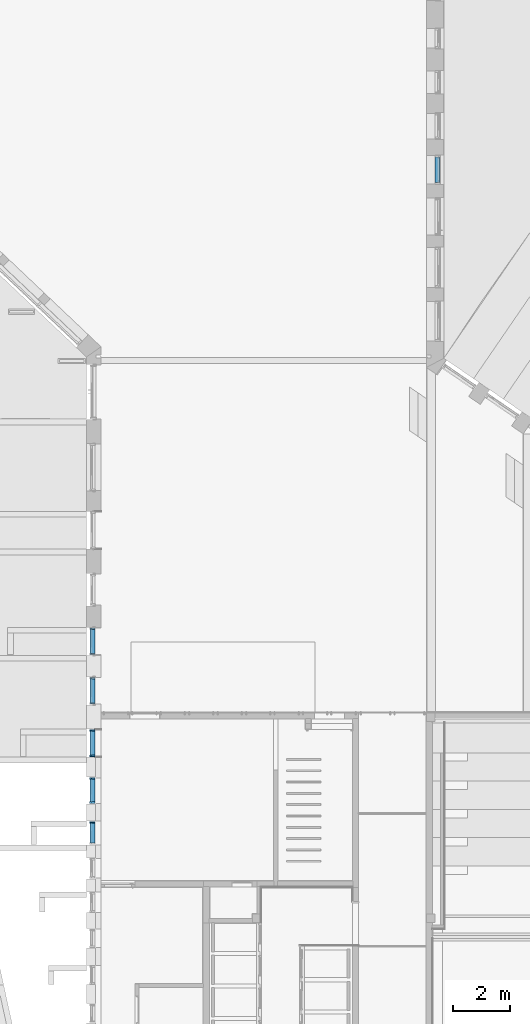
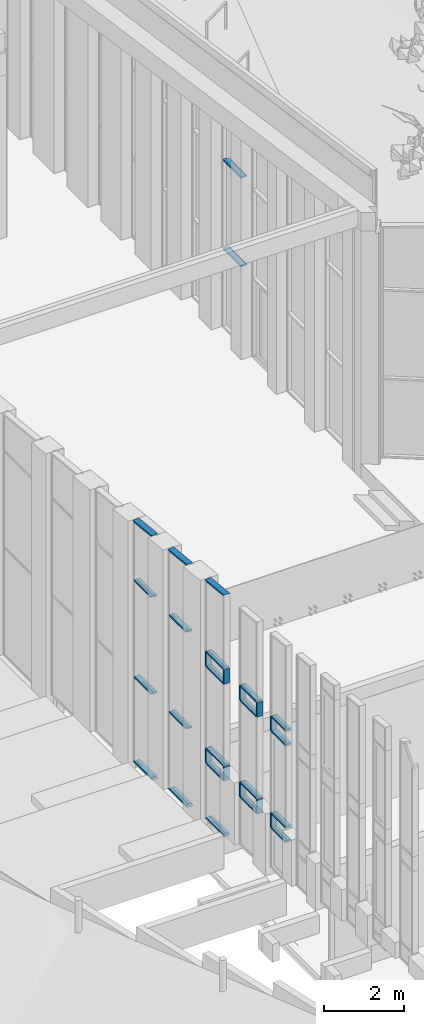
# One storey, part 35 of 246: 34 members, 6 elements without a shape of their own.
"""IFC2X3 building model written with IfcOpenShell, lengths in millimetres."""

from ifc_helpers import new_model, entity, si_unit, converted_unit, derived_unit, money_unit, direction, frame, origin_with_axes, place, context, subcontext, project, spatial, faceted_brep, source, transform, mapped, material, type_object, element, aggregate, save


model = new_model("IFC2X3")

# Units and contexts
model_context = context("Model", 3, precision=0.01, world=origin_with_axes(), true_north=direction((0.0, 1.0)))
body_context = subcontext(model_context, "Body", "Model", "MODEL_VIEW")
ifc_project = project(units=[si_unit("LENGTHUNIT", "METRE", prefix="MILLI"), si_unit("AREAUNIT", "SQUARE_METRE"), si_unit("VOLUMEUNIT", "CUBIC_METRE"), converted_unit("PLANEANGLEUNIT", "DEGREE", entity("IfcPlaneAngleMeasure", 0.0174532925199), si_unit("PLANEANGLEUNIT", "RADIAN"), dimensions=[0, 0, 0, 0, 0, 0, 0]), si_unit("SOLIDANGLEUNIT", "STERADIAN"), money_unit("EUR"), converted_unit("TIMEUNIT", "Year", entity("IfcTimeMeasure", 31556926.0), si_unit("TIMEUNIT", "SECOND"), dimensions=[0, 0, 1, 0, 0, 0, 0]), si_unit("MASSUNIT", "GRAM", prefix="KILO"), si_unit("THERMODYNAMICTEMPERATUREUNIT", "DEGREE_CELSIUS"), si_unit("LUMINOUSINTENSITYUNIT", "LUMEN"), si_unit("ENERGYUNIT", "JOULE", prefix="MEGA"), derived_unit("THERMALCONDUCTANCEUNIT", [(si_unit("POWERUNIT", "WATT"), 1), (si_unit("LENGTHUNIT", "METRE"), -1), (si_unit("THERMODYNAMICTEMPERATUREUNIT", "KELVIN"), -1)]), derived_unit("SPECIFICHEATCAPACITYUNIT", [(si_unit("ENERGYUNIT", "JOULE"), 1), (si_unit("MASSUNIT", "GRAM", prefix="KILO"), -1), (si_unit("THERMODYNAMICTEMPERATUREUNIT", "KELVIN"), -1)]), derived_unit("MASSDENSITYUNIT", [(si_unit("MASSUNIT", "GRAM", prefix="KILO"), 1), (si_unit("VOLUMEUNIT", "CUBIC_METRE"), -1)])], contexts=[model_context])

# Site, building, storey
site_placement = place(None, origin_with_axes())
site = spatial("IfcSite", under=ifc_project, at=site_placement, Name="L.Koidula tn 11b", CompositionType="ELEMENT")
building_placement = place(site_placement, origin_with_axes())
building = spatial("IfcBuilding", under=site, at=building_placement, Name="Rakvere Riigigümnaasium", CompositionType="ELEMENT")
storey_placement = place(building_placement, origin_with_axes())
storey = spatial("IfcBuildingStorey", under=building, at=storey_placement, Name="1.korrus 0,00", CompositionType="ELEMENT", Elevation=0.0)

# Curtain wall, members
curtain_wall_type = type_object("IfcCurtainWallType", Name="Curtain Wall Type", PredefinedType="NOTDEFINED")
curtain_wall_1_placement = place(storey_placement, frame((35156.0871538, 30435.4555151, 1604.94683277), z_axis=(0.0, 0.0, 1.0), x_axis=(1.0, 0.0, 0.0)))
curtain_wall_1 = element("IfcCurtainWall", 1, at=curtain_wall_1_placement, inside=storey, type_object=curtain_wall_type, Name="KLF-04-01")
ifc_material = material(Name="Alumiiniumprofiil (RAL 7021)")
member_type_1 = type_object("IfcMemberType", Name="Boundary Frame 50 x 170", PredefinedType="MULLION")
shared_shape_1 = source(origin_with_axes(), body_context, "Body", "Brep", [
    faceted_brep([(37.0, -26.0, 445.000001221), (37.0, 26.0, 445.000001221), (50.0, 26.0, 445.000001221), (50.0, 46.0, 445.000001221), (0.0, 46.0, 445.000001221), (0.0, -124.0, 445.000001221), (50.0, -124.0, 445.000001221), (50.0, -26.0, 445.000001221), (37.0, -26.0, -1.22099402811e-06), (37.0, 26.0, -1.22099402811e-06), (50.0, 26.0, -1.22099405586e-06), (50.0, 46.0, -1.22099405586e-06), (0.0, 46.0, -1.22099405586e-06), (0.0, -124.0, -1.22099405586e-06), (50.0, -124.0, -1.22099405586e-06), (50.0, -26.0, -1.22099405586e-06)], [[[0, 1, 2, 3, 4, 5, 6, 7]], [[1, 0, 8, 9]], [[10, 2, 1, 9]], [[2, 10, 11, 3]], [[12, 4, 3, 11]], [[13, 5, 4, 12]], [[14, 6, 5, 13]], [[15, 7, 6, 14]], [[0, 7, 15, 8]], [[8, 15, 14, 13, 12, 11, 10, 9]]]),
])
member_1_placement = place(curtain_wall_1_placement, frame((0.0, -475.000067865, 4640.00006988), z_axis=(0.0, -4.88397616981e-08, 1.0), x_axis=(0.0, 1.0, 4.88397616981e-08)))
member_1 = element("IfcMember", 2, at=member_1_placement, type_object=member_type_1, material=ifc_material, Name="KLF-04-55-Profiilid", ObjectType="MULLION", context=body_context, shape_type="MappedRepresentation", body=[
    mapped(shared_shape_1, transform((0.0, 0.0, 0.0))),
])
member_2_placement = place(curtain_wall_1_placement, frame((0.0, -475.000067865, 1695.00006988), z_axis=(0.0, 0.0, 1.0), x_axis=(0.0, 1.0, 0.0)))
member_2 = element("IfcMember", 3, at=member_2_placement, type_object=member_type_1, material=ifc_material, Name="KLF-04-53-Profiilid", ObjectType="MULLION", context=body_context, shape_type="MappedRepresentation", body=[
    mapped(shared_shape_1, transform((0.0, 0.0, 0.0))),
])
member_3_placement = place(curtain_wall_1_placement, frame((0.0, 475.000067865, 2140.00006988), z_axis=(0.0, 0.0, -1.0), x_axis=(0.0, -1.0, 0.0)))
member_3 = element("IfcMember", 4, at=member_3_placement, type_object=member_type_1, material=ifc_material, Name="KLF-04-61-Profiilid", ObjectType="MULLION", context=body_context, shape_type="MappedRepresentation", body=[
    mapped(shared_shape_1, transform((0.0, 0.0, 0.0))),
])
member_4_placement = place(curtain_wall_1_placement, frame((0.0, 475.000067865, 5085.00006988), z_axis=(0.0, 0.0, -1.0), x_axis=(0.0, -1.0, 0.0)))
member_4 = element("IfcMember", 5, at=member_4_placement, type_object=member_type_1, material=ifc_material, Name="KLF-04-59-Profiilid", ObjectType="MULLION", context=body_context, shape_type="MappedRepresentation", body=[
    mapped(shared_shape_1, transform((0.0, 0.0, 0.0))),
])

curtain_wall_2_placement = place(storey_placement, frame((35156.0871538, 28760.4555979, 1840.0), z_axis=(0.0, 0.0, 1.0), x_axis=(1.0, 0.0, 0.0)))
curtain_wall_2 = element("IfcCurtainWall", 6, at=curtain_wall_2_placement, inside=storey, type_object=curtain_wall_type, Name="KLF-04-02")
member_5_placement = place(curtain_wall_2_placement, frame((0.0, -449.999957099, 4405.00005204), z_axis=(0.0, 1.3375311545e-07, 1.0), x_axis=(0.0, 1.0, -1.3375311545e-07)))
member_5 = element("IfcMember", 7, at=member_5_placement, type_object=member_type_1, material=ifc_material, Name="KLF-04-93-Profiilid", ObjectType="MULLION", context=body_context, shape_type="MappedRepresentation", body=[
    mapped(shared_shape_1, transform((0.0, 0.0, 0.0))),
])
member_6_placement = place(curtain_wall_2_placement, frame((0.0, -450.000065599, 1460.00005204), z_axis=(0.0, 2.43820360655e-07, 1.0), x_axis=(0.0, 1.0, -2.43820360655e-07)))
member_6 = element("IfcMember", 8, at=member_6_placement, type_object=member_type_1, material=ifc_material, Name="KLF-04-91-Profiilid", ObjectType="MULLION", context=body_context, shape_type="MappedRepresentation", body=[
    mapped(shared_shape_1, transform((0.0, 0.0, 0.0))),
])

curtain_wall_3_placement = place(storey_placement, frame((35156.0871538, 27260.4554897, 2070.0), z_axis=(0.0, 0.0, 1.0), x_axis=(1.0, 0.0, 0.0)))
curtain_wall_3 = element("IfcCurtainWall", 9, at=curtain_wall_3_placement, inside=storey, type_object=curtain_wall_type, Name="KLF-04-03")
member_7_placement = place(curtain_wall_3_placement, frame((0.0, 399.999995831, 1675.00005204), z_axis=(0.0, 0.0, -1.0), x_axis=(0.0, -1.0, 0.0)))
member_7 = element("IfcMember", 10, at=member_7_placement, type_object=member_type_1, material=ifc_material, Name="KLF-04-51-Profiilid", ObjectType="MULLION", context=body_context, shape_type="MappedRepresentation", body=[
    mapped(shared_shape_1, transform((0.0, 0.0, 0.0))),
])
member_8_placement = place(curtain_wall_3_placement, frame((0.0, 399.999995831, 4620.00005204), z_axis=(0.0, 0.0, -1.0), x_axis=(0.0, -1.0, 0.0)))
member_8 = element("IfcMember", 11, at=member_8_placement, type_object=member_type_1, material=ifc_material, Name="KLF-04-49-Profiilid", ObjectType="MULLION", context=body_context, shape_type="MappedRepresentation", body=[
    mapped(shared_shape_1, transform((0.0, 0.0, 0.0))),
])

curtain_wall_4_placement = place(storey_placement, frame((35156.0871538, 34035.34119, 1144.99990202), z_axis=(0.0, 0.0, 1.0), x_axis=(1.0, 0.0, 0.0)))
curtain_wall_4 = element("IfcCurtainWall", 12, at=curtain_wall_4_placement, inside=storey, type_object=curtain_wall_type, Name="KLF-03-05")
member_type_2 = type_object("IfcMemberType", Name="Transom Frame 50 x 170", PredefinedType="MULLION")
shared_shape_2 = source(origin_with_axes(), body_context, "Body", "Brep", [
    faceted_brep([(-12.0, -26.0, 900.00010355), (-25.0, -26.0, 900.00010355), (-25.0, -124.0, 900.00010355), (25.0, -124.0, 900.00010355), (25.0, -26.0, 900.00010355), (12.0, -26.0, 900.00010355), (12.0, 26.0, 900.00010355), (25.0, 26.0, 900.00010355), (25.0, 46.0, 900.00010355), (-25.0, 46.0, 900.00010355), (-25.0, 26.0, 900.00010355), (-12.0, 26.0, 900.00010355), (-12.0, -26.0, 50.0), (-25.0, -26.0, 50.0), (-25.0, -124.0, 50.0), (25.0, -124.0, 50.0), (25.0, -26.0, 50.0), (12.0, -26.0, 50.0), (12.0, 26.0, 50.0), (25.0, 26.0, 50.0), (25.0, 46.0, 50.0), (-25.0, 46.0, 50.0), (-25.0, 26.0, 50.0), (-12.0, 26.0, 50.0)], [[[0, 1, 2, 3, 4, 5, 6, 7, 8, 9, 10, 11]], [[1, 0, 12, 13]], [[1, 13, 14, 2]], [[2, 14, 15, 3]], [[4, 3, 15, 16]], [[4, 16, 17, 5]], [[5, 17, 18, 6]], [[7, 6, 18, 19]], [[19, 20, 8, 7]], [[8, 20, 21, 9]], [[22, 10, 9, 21]], [[11, 10, 22, 23]], [[0, 11, 23, 12]], [[23, 22, 21, 20, 19, 18, 17, 16, 15, 14, 13, 12]]]),
])
member_9_placement = place(curtain_wall_4_placement, frame((0.0, 475.000039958, 5545.00013945), z_axis=(0.0, -1.0, 0.0), x_axis=(0.0, 0.0, 1.0)))
member_9 = element("IfcMember", 13, at=member_9_placement, type_object=member_type_2, material=ifc_material, Name="KLF-03-05-Profiilid", ObjectType="MULLION", context=body_context, shape_type="MappedRepresentation", body=[
    mapped(shared_shape_2, transform((0.0, 0.0, 0.0))),
])
member_10_placement = place(curtain_wall_4_placement, frame((0.0, 475.000039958, 2600.00013945), z_axis=(0.0, -1.0, 0.0), x_axis=(0.0, 0.0, 1.0)))
member_10 = element("IfcMember", 14, at=member_10_placement, type_object=member_type_2, material=ifc_material, Name="KLF-03-05-Profiilid", ObjectType="MULLION", context=body_context, shape_type="MappedRepresentation", body=[
    mapped(shared_shape_2, transform((0.0, 0.0, 0.0))),
])

curtain_wall_5_placement = place(storey_placement, frame((35156.0871538, 32285.4558039, 1374.99993164), z_axis=(0.0, 0.0, 1.0), x_axis=(1.0, 0.0, 0.0)))
curtain_wall_5 = element("IfcCurtainWall", 15, at=curtain_wall_5_placement, inside=storey, type_object=curtain_wall_type, Name="KLF-03-06")
member_11_placement = place(curtain_wall_5_placement, frame((0.0, 474.999815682, 5315.00014685), z_axis=(0.0, -1.0, 0.0), x_axis=(0.0, 0.0, 1.0)))
member_11 = element("IfcMember", 16, at=member_11_placement, type_object=member_type_2, material=ifc_material, Name="KLF-03-06-Profiilid", ObjectType="MULLION", context=body_context, shape_type="MappedRepresentation", body=[
    mapped(shared_shape_2, transform((0.0, 0.0, 0.0))),
])
member_12_placement = place(curtain_wall_5_placement, frame((0.0, 474.999815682, 2370.00014685), z_axis=(0.0, -1.0, 0.0), x_axis=(0.0, 0.0, 1.0)))
member_12 = element("IfcMember", 17, at=member_12_placement, type_object=member_type_2, material=ifc_material, Name="KLF-03-06-Profiilid", ObjectType="MULLION", context=body_context, shape_type="MappedRepresentation", body=[
    mapped(shared_shape_2, transform((0.0, 0.0, 0.0))),
])

# Member
member_13_placement = place(curtain_wall_1_placement, frame((0.0, 475.000067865, 5085.00006988), z_axis=(0.0, -1.0, 0.0), x_axis=(0.0, 0.0, 1.0)))
member_13 = element("IfcMember", 18, at=member_13_placement, type_object=member_type_2, material=ifc_material, Name="KLF-04-01-Profiilid", ObjectType="MULLION", context=body_context, shape_type="MappedRepresentation", body=[
    mapped(shared_shape_2, transform((0.0, 0.0, 0.0))),
])

member_14_placement = place(curtain_wall_1_placement, frame((0.0, 475.000067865, 2140.00006988), z_axis=(0.0, -1.0, 0.0), x_axis=(0.0, 0.0, 1.0)))
member_14 = element("IfcMember", 19, at=member_14_placement, type_object=member_type_2, material=ifc_material, Name="KLF-04-01-Profiilid", ObjectType="MULLION", context=body_context, shape_type="MappedRepresentation", body=[
    mapped(shared_shape_2, transform((0.0, 0.0, 0.0))),
])

member_15_placement = place(curtain_wall_1_placement, frame((0.0, 475.000067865, 1695.00006988), z_axis=(0.0, -1.0, 0.0), x_axis=(0.0, 0.0, 1.0)))
member_15 = element("IfcMember", 20, at=member_15_placement, type_object=member_type_2, material=ifc_material, Name="KLF-04-01-Profiilid", ObjectType="MULLION", context=body_context, shape_type="MappedRepresentation", body=[
    mapped(shared_shape_2, transform((0.0, 0.0, 0.0))),
])

member_16_placement = place(curtain_wall_1_placement, frame((0.0, 475.000067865, 4640.00006988), z_axis=(0.0, -1.0, 0.0), x_axis=(0.0, 0.0, 1.0)))
member_16 = element("IfcMember", 21, at=member_16_placement, type_object=member_type_2, material=ifc_material, Name="KLF-04-35-Profiilid", ObjectType="MULLION", context=body_context, shape_type="MappedRepresentation", body=[
    mapped(shared_shape_2, transform((0.0, 0.0, 0.0))),
])

shared_shape_3 = source(origin_with_axes(), body_context, "Body", "Brep", [
    faceted_brep([(-12.0, -26.0, 849.999878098), (-25.0, -26.0, 849.999878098), (-25.0, -124.0, 849.999854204), (25.0, -124.0, 849.999854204), (25.0, -26.0, 849.999878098), (12.0, -26.0, 849.999878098), (12.0, 26.0, 849.999890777), (25.0, 26.0, 849.999890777), (25.0, 46.0, 849.999895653), (-25.0, 46.0, 849.999895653), (-25.0, 26.0, 849.999890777), (-12.0, 26.0, 849.999890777), (-12.0, -26.0, 50.0), (-25.0, -26.0, 50.0), (-25.0, -124.0, 50.0), (25.0, -124.0, 50.0), (25.0, -26.0, 50.0), (12.0, -26.0, 50.0), (12.0, 26.0, 50.0), (25.0, 26.0, 50.0), (25.0, 46.0, 50.0), (-25.0, 46.0, 50.0), (-25.0, 26.0, 50.0), (-12.0, 26.0, 50.0)], [[[0, 1, 2, 3, 4, 5, 6, 7, 8, 9, 10, 11]], [[1, 0, 12, 13]], [[1, 13, 14, 2]], [[2, 14, 15, 3]], [[4, 3, 15, 16]], [[4, 16, 17, 5]], [[5, 17, 18, 6]], [[7, 6, 18, 19]], [[19, 20, 8, 7]], [[8, 20, 21, 9]], [[22, 10, 9, 21]], [[11, 10, 22, 23]], [[0, 11, 23, 12]], [[23, 22, 21, 20, 19, 18, 17, 16, 15, 14, 13, 12]]]),
])
member_17_placement = place(curtain_wall_2_placement, frame((0.0, 449.999927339, 1905.00005204), z_axis=(0.0, -1.0, 0.0), x_axis=(0.0, 0.0, 1.0)))
member_17 = element("IfcMember", 22, at=member_17_placement, type_object=member_type_2, material=ifc_material, Name="KLF-04-02-Profiilid", ObjectType="MULLION", context=body_context, shape_type="MappedRepresentation", body=[
    mapped(shared_shape_3, transform((0.0, 0.0, 0.0))),
])

member_18_placement = place(curtain_wall_2_placement, frame((0.0, 449.999927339, 1460.00005204), z_axis=(0.0, -1.0, 0.0), x_axis=(0.0, 0.0, 1.0)))
member_18 = element("IfcMember", 23, at=member_18_placement, type_object=member_type_2, material=ifc_material, Name="KLF-04-48-Profiilid", ObjectType="MULLION", context=body_context, shape_type="MappedRepresentation", body=[
    mapped(shared_shape_3, transform((0.0, 0.0, 0.0))),
])

member_19_placement = place(curtain_wall_2_placement, frame((0.0, 449.999927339, 4405.00005204), z_axis=(0.0, -1.0, 0.0), x_axis=(0.0, 0.0, 1.0)))
member_19 = element("IfcMember", 24, at=member_19_placement, type_object=member_type_2, material=ifc_material, Name="KLF-04-52-Profiilid", ObjectType="MULLION", context=body_context, shape_type="MappedRepresentation", body=[
    mapped(shared_shape_3, transform((0.0, 0.0, 0.0))),
])

member_20_placement = place(curtain_wall_2_placement, frame((0.0, 449.999927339, 4850.00005204), z_axis=(0.0, -1.0, 0.0), x_axis=(0.0, 0.0, 1.0)))
member_20 = element("IfcMember", 25, at=member_20_placement, type_object=member_type_2, material=ifc_material, Name="KLF-04-54-Profiilid", ObjectType="MULLION", context=body_context, shape_type="MappedRepresentation", body=[
    mapped(shared_shape_3, transform((0.0, 0.0, 0.0))),
])

shared_shape_4 = source(origin_with_axes(), body_context, "Body", "Brep", [
    faceted_brep([(-12.0, -26.0, 749.999995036), (-25.0, -26.0, 749.999995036), (-25.0, -124.0, 749.999995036), (25.0, -124.0, 749.999995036), (25.0, -26.0, 749.999995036), (12.0, -26.0, 749.999995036), (12.0, 26.0, 749.999995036), (25.0, 26.0, 749.999995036), (25.0, 46.0, 749.999995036), (-25.0, 46.0, 749.999995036), (-25.0, 26.0, 749.999995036), (-12.0, 26.0, 749.999995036), (-12.0, -26.0, 50.0000002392), (-25.0, -26.0, 50.0000002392), (-25.0, -124.0, 50.000001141), (25.0, -124.0, 50.000001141), (25.0, -26.0, 50.0000002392), (12.0, -26.0, 50.0000002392), (12.0, 26.0, 49.9999997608), (25.0, 26.0, 49.9999997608), (25.0, 46.0, 49.9999995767), (-25.0, 46.0, 49.9999995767), (-25.0, 26.0, 49.9999997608), (-12.0, 26.0, 49.9999997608)], [[[0, 1, 2, 3, 4, 5, 6, 7, 8, 9, 10, 11]], [[1, 0, 12, 13]], [[1, 13, 14, 2]], [[2, 14, 15, 3]], [[4, 3, 15, 16]], [[4, 16, 17, 5]], [[5, 17, 18, 6]], [[7, 6, 18, 19]], [[19, 20, 8, 7]], [[8, 20, 21, 9]], [[22, 10, 9, 21]], [[11, 10, 22, 23]], [[0, 11, 23, 12]], [[23, 22, 21, 20, 19, 18, 17, 16, 15, 14, 13, 12]]]),
])
member_21_placement = place(curtain_wall_3_placement, frame((0.0, 399.999995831, 4620.00005204), z_axis=(0.0, -1.0, 0.0), x_axis=(0.0, 0.0, 1.0)))
member_21 = element("IfcMember", 26, at=member_21_placement, type_object=member_type_2, material=ifc_material, Name="KLF-04-03-Profiilid", ObjectType="MULLION", context=body_context, shape_type="MappedRepresentation", body=[
    mapped(shared_shape_4, transform((0.0, 0.0, 0.0))),
])

member_22_placement = place(curtain_wall_3_placement, frame((0.0, 399.999995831, 1675.00005204), z_axis=(0.0, -1.0, 0.0), x_axis=(0.0, 0.0, 1.0)))
member_22 = element("IfcMember", 27, at=member_22_placement, type_object=member_type_2, material=ifc_material, Name="KLF-04-03-Profiilid", ObjectType="MULLION", context=body_context, shape_type="MappedRepresentation", body=[
    mapped(shared_shape_4, transform((0.0, 0.0, 0.0))),
])

member_23_placement = place(curtain_wall_3_placement, frame((0.0, 399.999995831, 1230.00005204), z_axis=(0.0, -1.0, 0.0), x_axis=(0.0, 0.0, 1.0)))
member_23 = element("IfcMember", 28, at=member_23_placement, type_object=member_type_2, material=ifc_material, Name="KLF-04-03-Profiilid", ObjectType="MULLION", context=body_context, shape_type="MappedRepresentation", body=[
    mapped(shared_shape_4, transform((0.0, 0.0, 0.0))),
])

member_24_placement = place(curtain_wall_3_placement, frame((0.0, 399.999995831, 4175.00005204), z_axis=(0.0, -1.0, 0.0), x_axis=(0.0, 0.0, 1.0)))
member_24 = element("IfcMember", 29, at=member_24_placement, type_object=member_type_2, material=ifc_material, Name="KLF-04-26-Profiilid", ObjectType="MULLION", context=body_context, shape_type="MappedRepresentation", body=[
    mapped(shared_shape_4, transform((0.0, 0.0, 0.0))),
])

aggregate(curtain_wall_3, [member_21, member_22, member_23, member_7, member_8, member_24])

# Curtain wall, members
curtain_wall_6_placement = place(storey_placement, frame((47434.0004775, 50700.4459651, -5.70142248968e-05), z_axis=(0.0, 0.0, 1.0), x_axis=(1.0, 0.0, 0.0)))
curtain_wall_6 = element("IfcCurtainWall", 30, at=curtain_wall_6_placement, inside=storey, type_object=curtain_wall_type, Name="KLF-07-04")
shared_shape_5 = source(origin_with_axes(), body_context, "Body", "Brep", [
    faceted_brep([(12.0, -26.0, 949.999979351), (12.0, 26.0, 949.999981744), (25.0, 26.0, 949.999981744), (25.0, 46.0, 949.999982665), (-25.0, 46.0, 949.999982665), (-25.0, 26.0, 949.999981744), (-12.0, 26.0, 949.999981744), (-12.0, -26.0, 949.999979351), (-25.0, -26.0, 949.999979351), (-25.0, -124.0, 949.999974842), (25.0, -124.0, 949.999974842), (25.0, -26.0, 949.999979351), (12.0, -26.0, 50.0), (12.0, 26.0, 50.0), (25.0, 26.0, 50.0), (25.0, 46.0, 50.0), (-25.0, 46.0, 50.0), (-25.0, 26.0, 50.0), (-12.0, 26.0, 50.0), (-12.0, -26.0, 50.0), (-25.0, -26.0, 50.0), (-25.0, -124.0, 50.0), (25.0, -124.0, 50.0), (25.0, -26.0, 50.0)], [[[0, 1, 2, 3, 4, 5, 6, 7, 8, 9, 10, 11]], [[0, 12, 13, 1]], [[1, 13, 14, 2]], [[14, 15, 3, 2]], [[4, 3, 15, 16]], [[17, 5, 4, 16]], [[5, 17, 18, 6]], [[7, 6, 18, 19]], [[8, 7, 19, 20]], [[8, 20, 21, 9]], [[10, 9, 21, 22]], [[11, 10, 22, 23]], [[11, 23, 12, 0]], [[13, 12, 23, 22, 21, 20, 19, 18, 17, 16, 15, 14]]]),
])
member_25_placement = place(curtain_wall_6_placement, frame((0.0, 499.999990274, 5100.00005701), z_axis=(0.0, -1.0, 0.0), x_axis=(0.0, 0.0, 1.0)))
member_25 = element("IfcMember", 31, at=member_25_placement, type_object=member_type_2, material=ifc_material, Name="KLF-07-30-Profiilid", ObjectType="MULLION", context=body_context, shape_type="MappedRepresentation", body=[
    mapped(shared_shape_5, transform((0.0, 0.0, 0.0), x_axis=(-1.0, 0.0, 0.0), y_axis=(0.0, -1.0, 0.0), z_axis=(0.0, 0.0, 1.0))),
])
member_26_placement = place(curtain_wall_6_placement, frame((0.0, 499.999990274, 2400.00005701), z_axis=(0.0, -1.0, 0.0), x_axis=(0.0, 0.0, 1.0)))
member_26 = element("IfcMember", 32, at=member_26_placement, type_object=member_type_2, material=ifc_material, Name="KLF-07-31-Profiilid", ObjectType="MULLION", context=body_context, shape_type="MappedRepresentation", body=[
    mapped(shared_shape_5, transform((0.0, 0.0, 0.0), x_axis=(-1.0, 0.0, 0.0), y_axis=(0.0, -1.0, 0.0), z_axis=(0.0, 0.0, 1.0))),
])
aggregate(curtain_wall_6, [member_25, member_26])

# Member
shared_shape_6 = source(origin_with_axes(), body_context, "Body", "Brep", [
    faceted_brep([(37.0, -26.0, 912.999945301), (37.0, 26.0, 912.999945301), (50.0, 26.0, 899.999945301), (50.0, 46.0, 899.999945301), (0.0, 46.0, 949.999945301), (0.0, -124.0, 949.999945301), (50.0, -124.0, 899.999945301), (50.0, -26.0, 899.999945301), (37.0, -26.0, 36.9999984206), (37.0, 26.0, 36.9999984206), (50.0, 26.0, 49.9999978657), (50.0, 46.0, 49.9999978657), (0.0, 46.0, 0.0), (0.0, -124.0, 0.0), (50.0, -124.0, 49.9999978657), (50.0, -26.0, 49.9999978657)], [[[0, 1, 2, 3, 4, 5, 6, 7]], [[1, 0, 8, 9]], [[10, 2, 1, 9]], [[2, 10, 11, 3]], [[4, 3, 11, 12]], [[5, 4, 12, 13]], [[6, 5, 13, 14]], [[15, 7, 6, 14]], [[0, 7, 15, 8]], [[8, 15, 14, 13, 12, 11, 10, 9]]]),
])
member_27_placement = place(curtain_wall_4_placement, frame((0.0, 474.999928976, 0.0), z_axis=(0.0, -1.0, 0.0), x_axis=(0.0, 0.0, 1.0)))
member_27 = element("IfcMember", 33, at=member_27_placement, type_object=member_type_1, material=ifc_material, Name="KLF-03-23-Profiilid", ObjectType="MULLION", context=body_context, shape_type="MappedRepresentation", body=[
    mapped(shared_shape_6, transform((0.0, 0.0, 0.0))),
])

member_28_placement = place(curtain_wall_5_placement, frame((0.0, 474.999705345, 0.0), z_axis=(0.0, -1.0, 0.0), x_axis=(0.0, 0.0, 1.0)))
member_28 = element("IfcMember", 34, at=member_28_placement, type_object=member_type_1, material=ifc_material, Name="KLF-03-50-Profiilid", ObjectType="MULLION", context=body_context, shape_type="MappedRepresentation", body=[
    mapped(shared_shape_6, transform((0.0, 0.0, 0.0))),
])

member_29_placement = place(curtain_wall_1_placement, frame((0.0, 475.000056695, 0.0), z_axis=(0.0, -1.0, 0.0), x_axis=(0.0, 0.0, 1.0)))
member_29 = element("IfcMember", 35, at=member_29_placement, type_object=member_type_1, material=ifc_material, Name="KLF-04-51-Profiilid", ObjectType="MULLION", context=body_context, shape_type="MappedRepresentation", body=[
    mapped(shared_shape_6, transform((0.0, 0.0, 0.0))),
])

shared_shape_7 = source(origin_with_axes(), body_context, "Body", "Brep", [
    faceted_brep([(37.0, -26.0, 921.917987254), (37.0, 26.0, 921.917987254), (50.0, 26.0, 910.212735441), (50.0, 46.0, 910.212735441), (0.0, 46.0, 955.232934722), (0.0, -124.0, 955.232934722), (50.0, -124.0, 910.212735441), (50.0, -26.0, 910.212735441), (37.0, -26.0, 41.0926648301), (37.0, 26.0, 41.0926648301), (50.0, 26.0, 55.5306281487), (50.0, 46.0, 55.5306281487), (0.0, 46.0, 0.0), (0.0, -124.0, 0.0), (50.0, -124.0, 55.5306281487), (50.0, -26.0, 55.5306281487)], [[[0, 1, 2, 3, 4, 5, 6, 7]], [[1, 0, 8, 9]], [[10, 2, 1, 9]], [[2, 10, 11, 3]], [[4, 3, 11, 12]], [[5, 4, 12, 13]], [[6, 5, 13, 14]], [[15, 7, 6, 14]], [[0, 7, 15, 8]], [[8, 15, 14, 13, 12, 11, 10, 9]]]),
])
member_30_placement = place(curtain_wall_4_placement, frame((0.0, -475.000063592, 7446.73614617), z_axis=(0.0, 0.994521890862, -0.104528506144), x_axis=(0.0, -0.104528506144, -0.994521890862)))
member_30 = element("IfcMember", 36, at=member_30_placement, type_object=member_type_1, material=ifc_material, Name="KLF-03-27-Profiilid", ObjectType="MULLION", context=body_context, shape_type="MappedRepresentation", body=[
    mapped(shared_shape_7, transform((0.0, 0.0, 0.0))),
])

aggregate(curtain_wall_4, [member_9, member_27, member_10, member_30])

member_31_placement = place(curtain_wall_5_placement, frame((0.0, -474.999849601, 7400.65648983), z_axis=(0.0, 0.994521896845, -0.104528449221), x_axis=(0.0, -0.104528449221, -0.994521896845)))
member_31 = element("IfcMember", 37, at=member_31_placement, type_object=member_type_1, material=ifc_material, Name="KLF-03-54-Profiilid", ObjectType="MULLION", context=body_context, shape_type="MappedRepresentation", body=[
    mapped(shared_shape_7, transform((0.0, 0.0, 0.0))),
])

aggregate(curtain_wall_5, [member_11, member_12, member_28, member_31])

member_32_placement = place(curtain_wall_1_placement, frame((0.0, -475.000089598, 7365.15240582), z_axis=(0.0, 0.994521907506, -0.104528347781), x_axis=(0.0, -0.104528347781, -0.994521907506)))
member_32 = element("IfcMember", 38, at=member_32_placement, type_object=member_type_1, material=ifc_material, Name="KLF-04-57-Profiilid", ObjectType="MULLION", context=body_context, shape_type="MappedRepresentation", body=[
    mapped(shared_shape_7, transform((0.0, 0.0, 0.0))),
])

aggregate(curtain_wall_1, [member_13, member_14, member_15, member_29, member_1, member_16, member_2, member_3, member_4, member_32])

shared_shape_8 = source(origin_with_axes(), body_context, "Body", "Brep", [
    faceted_brep([(-37.0, -26.0, 445.0), (-50.0, -26.0, 445.0), (-50.0, -124.0, 445.0), (0.0, -124.0, 445.0), (0.0, 46.0, 445.0), (-50.0, 46.0, 445.0), (-50.0, 26.0, 445.0), (-37.0, 26.0, 445.0), (-37.0, -26.0, 0.0), (-50.0, -26.0, 0.0), (-50.0, -124.0, 0.0), (0.0, -124.0, 0.0), (0.0, 46.0, 0.0), (-50.0, 46.0, 0.0), (-50.0, 26.0, 0.0), (-37.0, 26.0, 0.0)], [[[0, 1, 2, 3, 4, 5, 6, 7]], [[0, 8, 9, 1]], [[9, 10, 2, 1]], [[10, 11, 3, 2]], [[11, 12, 4, 3]], [[12, 13, 5, 4]], [[6, 5, 13, 14]], [[14, 15, 7, 6]], [[7, 15, 8, 0]], [[8, 15, 14, 13, 12, 11, 10, 9]]]),
])
member_33_placement = place(curtain_wall_2_placement, frame((0.0, 449.999927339, 1460.00005204), z_axis=(0.0, 0.0, 1.0), x_axis=(0.0, 1.0, 0.0)))
member_33 = element("IfcMember", 39, at=member_33_placement, type_object=member_type_1, material=ifc_material, Name="KLF-04-99-Profiilid", ObjectType="MULLION", context=body_context, shape_type="MappedRepresentation", body=[
    mapped(shared_shape_8, transform((0.0, 0.0, 0.0))),
])

member_34_placement = place(curtain_wall_2_placement, frame((0.0, 449.999927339, 4405.00005204), z_axis=(0.0, 0.0, 1.0), x_axis=(0.0, 1.0, 0.0)))
member_34 = element("IfcMember", 40, at=member_34_placement, type_object=member_type_1, material=ifc_material, Name="KLF-04-97-Profiilid", ObjectType="MULLION", context=body_context, shape_type="MappedRepresentation", body=[
    mapped(shared_shape_8, transform((0.0, 0.0, 0.0))),
])

aggregate(curtain_wall_2, [member_17, member_33, member_34, member_18, member_19, member_20, member_5, member_6])

save(model, "model.ifc")
